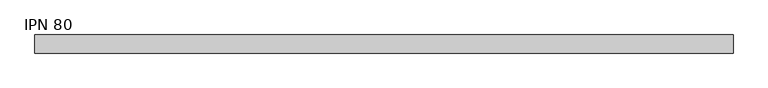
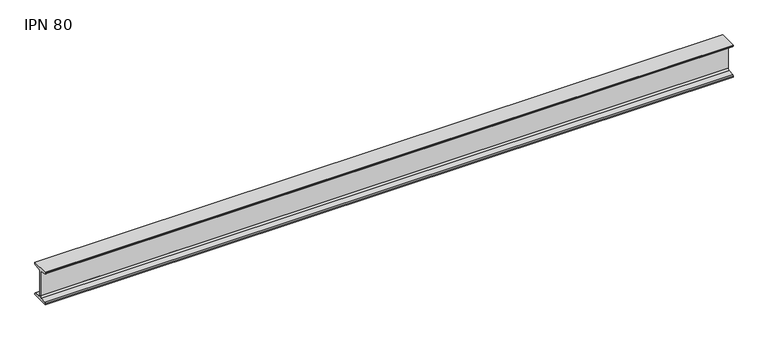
"""IFC4 building model written with IfcOpenShell, lengths in millimetres: beam geometry, IPN - Secciones en I con alas cónicas : IPN 80."""

from ifc_helpers import new_model, si_unit, point, frame, frame_2d, origin, place, context, project, spatial, polyline, circle_curve, trimmed, segment, composite_curve, outline, extrude, source, transform, mapped, element, save


def ipn_80_dc9e7507(model_context):
    return source(origin(), model_context, "Body", "SweptSolid", [
        extrude(outline(composite_curve([segment(polyline([(21.0, 40.0), (21.0, 37.5704306)]), True, "CONTINUOUS"), segment(trimmed(circle_curve(frame_2d((18.7, 37.5704306)), 2.3), [point((21.0, 37.5704306))], [point((19.01889, 35.2926446))], False, "CARTESIAN"), True, "CONTINUOUS"), segment(polyline([(19.01889, 35.2926446), (5.3092734, 33.3732983)]), True, "CONTINUOUS"), segment(trimmed(circle_curve(frame_2d((5.85, 29.5109655)), 3.9), [point((5.3092734, 33.3732983))], [point((1.95, 29.5109655))], True, "CARTESIAN"), True, "CONTINUOUS"), segment(polyline([(1.95, 29.5109655), (1.95, -29.5109655)]), True, "CONTINUOUS"), segment(trimmed(circle_curve(frame_2d((5.85, -29.5109655)), 3.9), [point((1.95, -29.5109655))], [point((5.3092734, -33.3732983))], True, "CARTESIAN"), True, "CONTINUOUS"), segment(polyline([(5.3092734, -33.3732983), (19.01889, -35.2926446)]), True, "CONTINUOUS"), segment(trimmed(circle_curve(frame_2d((18.7, -37.5704306)), 2.3), [point((19.01889, -35.2926446))], [point((21.0, -37.5704306))], False, "CARTESIAN"), True, "CONTINUOUS"), segment(polyline([(21.0, -37.5704306), (21.0, -40.0), (-21.0, -40.0), (-21.0, -37.5704306)]), True, "CONTINUOUS"), segment(trimmed(circle_curve(frame_2d((-18.7, -37.5704306)), 2.3), [point((-21.0, -37.5704306))], [point((-19.01889, -35.2926446))], False, "CARTESIAN"), True, "CONTINUOUS"), segment(polyline([(-19.01889, -35.2926446), (-5.3092734, -33.3732983)]), True, "CONTINUOUS"), segment(trimmed(circle_curve(frame_2d((-5.85, -29.5109655)), 3.9), [point((-5.3092734, -33.3732983))], [point((-1.95, -29.5109655))], True, "CARTESIAN"), True, "CONTINUOUS"), segment(polyline([(-1.95, -29.5109655), (-1.95, 29.5109655)]), True, "CONTINUOUS"), segment(trimmed(circle_curve(frame_2d((-5.85, 29.5109655)), 3.9), [point((-1.95, 29.5109655))], [point((-5.3092734, 33.3732983))], True, "CARTESIAN"), True, "CONTINUOUS"), segment(polyline([(-5.3092734, 33.3732983), (-19.01889, 35.2926446)]), True, "CONTINUOUS"), segment(trimmed(circle_curve(frame_2d((-18.7, 37.5704306)), 2.3), [point((-19.01889, 35.2926446))], [point((-21.0, 37.5704306))], False, "CARTESIAN"), True, "CONTINUOUS"), segment(polyline([(-21.0, 37.5704306), (-21.0, 40.0), (21.0, 40.0)]), True, "CONTINUOUS")], self_intersect=False)), frame((-808.0, 0.0, 0.0), z_axis=(1.0, 0.0, 0.0), x_axis=(0.0, 1.0, 0.0)), (0.0, 0.0, 1.0), 1616.0),
    ])


if __name__ == "__main__":
    model = new_model("IFC4")
    model_context = context("Model", 3, world=origin())
    ifc_project = project(units=[si_unit("LENGTHUNIT", "METRE", prefix="MILLI")], contexts=[model_context])
    site = spatial("IfcSite", under=ifc_project)
    building = spatial("IfcBuilding", under=site)
    placement = place(None, origin())
    ipn_80_shape = ipn_80_dc9e7507(model_context)
    element("IfcBeam", 1, ObjectType="IPN - Secciones en I con alas cónicas : IPN 80", at=placement, inside=building, context=model_context, shape_type="MappedRepresentation", body=[
        mapped(ipn_80_shape, transform((0.0, 0.0, 0.0), x_axis=(1.0, 0.0, 0.0), y_axis=(0.0, 1.0, 0.0), z_axis=(0.0, 0.0, 1.0))),
    ])
    save(model, "model.ifc")
